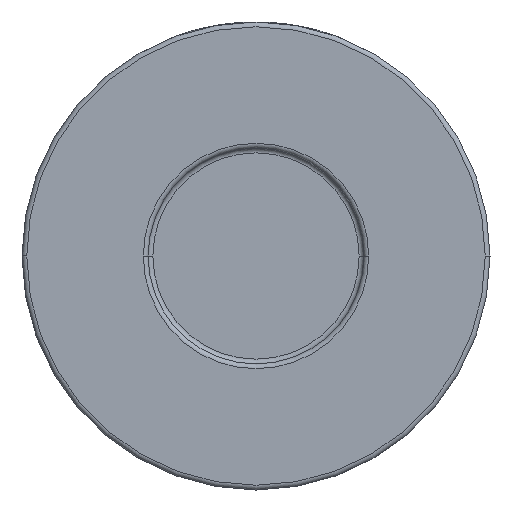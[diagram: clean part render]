
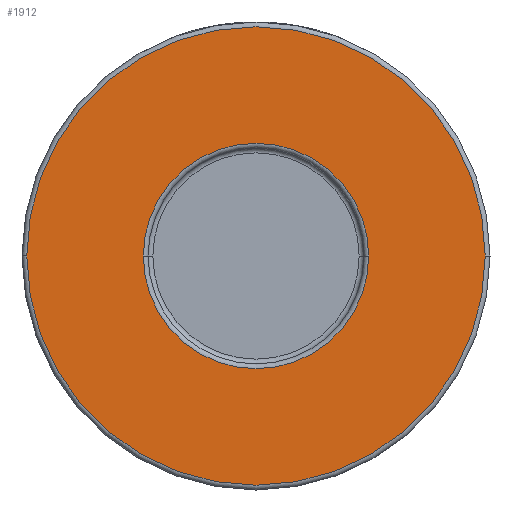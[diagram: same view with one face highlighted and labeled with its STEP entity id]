
A CAD part, front view. The second image highlights one B-rep face of the part: STEP entity #1912.
In plain terms, the highlighted planar face has unit normal (0, -1, 0).
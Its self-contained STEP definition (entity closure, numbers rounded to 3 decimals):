
#47 = CARTESIAN_POINT ( 'NONE',  ( -48., -30., 0. ) ) ;
#208 = ORIENTED_EDGE ( 'NONE', *, *, #2371, .T. ) ;
#395 = CIRCLE ( 'NONE', #1218, 48. ) ;
#418 = DIRECTION ( 'NONE',  ( 1., 0., 0. ) ) ;
#641 = DIRECTION ( 'NONE',  ( 0., 1., 0. ) ) ;
#873 = AXIS2_PLACEMENT_3D ( 'NONE', #1664, #3207, #2409 ) ;
#953 = EDGE_CURVE ( 'NONE', #1555, #4319, #395, .T. ) ;
#1002 = ORIENTED_EDGE ( 'NONE', *, *, #2289, .T. ) ;
#1033 = CARTESIAN_POINT ( 'NONE',  ( -23.6, -30., 0. ) ) ;
#1117 = CARTESIAN_POINT ( 'NONE',  ( 48., -30., 0. ) ) ;
#1218 = AXIS2_PLACEMENT_3D ( 'NONE', #4117, #1960, #2973 ) ;
#1298 = FACE_OUTER_BOUND ( 'NONE', #3131, .T. ) ;
#1324 = CIRCLE ( 'NONE', #873, 48. ) ;
#1555 = VERTEX_POINT ( 'NONE', #47 ) ;
#1664 = CARTESIAN_POINT ( 'NONE',  ( 0., -30., 0. ) ) ;
#1708 = ORIENTED_EDGE ( 'NONE', *, *, #953, .T. ) ;
#1812 = DIRECTION ( 'NONE',  ( 0., -1., 0. ) ) ;
#1897 = AXIS2_PLACEMENT_3D ( 'NONE', #2228, #3568, #418 ) ;
#1912 = ADVANCED_FACE ( 'NONE', ( #4127, #1298 ), #3050, .T. ) ;
#1960 = DIRECTION ( 'NONE',  ( 0., -1., 0. ) ) ;
#2209 = DIRECTION ( 'NONE',  ( 1., 0., 0. ) ) ;
#2228 = CARTESIAN_POINT ( 'NONE',  ( 0., -30., 0. ) ) ;
#2289 = EDGE_CURVE ( 'NONE', #4319, #1555, #1324, .T. ) ;
#2371 = EDGE_CURVE ( 'NONE', #2750, #2398, #4432, .T. ) ;
#2398 = VERTEX_POINT ( 'NONE', #3142 ) ;
#2409 = DIRECTION ( 'NONE',  ( 1., 0., 0. ) ) ;
#2711 = CARTESIAN_POINT ( 'NONE',  ( 49., -30., 0. ) ) ;
#2718 = CIRCLE ( 'NONE', #1897, 23.6 ) ;
#2750 = VERTEX_POINT ( 'NONE', #1033 ) ;
#2973 = DIRECTION ( 'NONE',  ( 1., 0., 0. ) ) ;
#3050 = PLANE ( 'NONE',  #4577 ) ;
#3131 = EDGE_LOOP ( 'NONE', ( #1002, #1708 ) ) ;
#3142 = CARTESIAN_POINT ( 'NONE',  ( 23.6, -30., 0. ) ) ;
#3186 = DIRECTION ( 'NONE',  ( 1., 0., 0. ) ) ;
#3207 = DIRECTION ( 'NONE',  ( 0., -1., 0. ) ) ;
#3568 = DIRECTION ( 'NONE',  ( 0., 1., 0. ) ) ;
#3880 = ORIENTED_EDGE ( 'NONE', *, *, #4123, .T. ) ;
#4117 = CARTESIAN_POINT ( 'NONE',  ( 0., -30., 0. ) ) ;
#4123 = EDGE_CURVE ( 'NONE', #2398, #2750, #2718, .T. ) ;
#4127 = FACE_BOUND ( 'NONE', #4231, .T. ) ;
#4231 = EDGE_LOOP ( 'NONE', ( #3880, #208 ) ) ;
#4237 = CARTESIAN_POINT ( 'NONE',  ( 0., -30., 0. ) ) ;
#4319 = VERTEX_POINT ( 'NONE', #1117 ) ;
#4432 = CIRCLE ( 'NONE', #4517, 23.6 ) ;
#4517 = AXIS2_PLACEMENT_3D ( 'NONE', #4237, #641, #3186 ) ;
#4577 = AXIS2_PLACEMENT_3D ( 'NONE', #2711, #1812, #2209 ) ;
